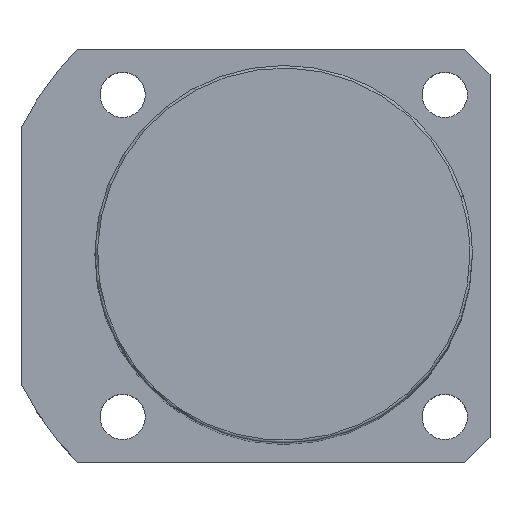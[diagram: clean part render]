
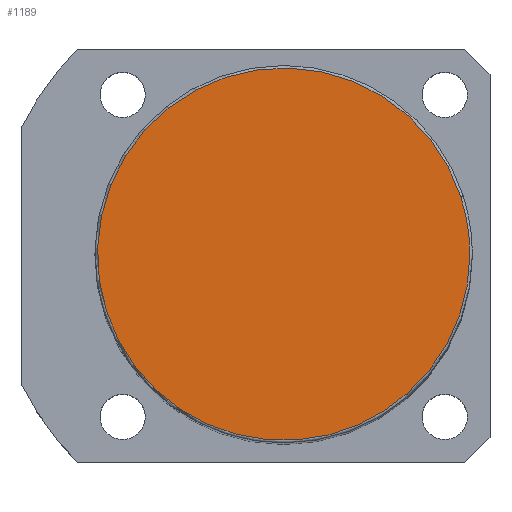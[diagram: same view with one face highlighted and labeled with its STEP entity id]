
A CAD part, top view. The second image highlights one B-rep face of the part: STEP entity #1189.
In plain terms, the highlighted planar face has unit normal (0, 0, 1).
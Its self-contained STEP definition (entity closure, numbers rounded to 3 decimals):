
#1155=CARTESIAN_POINT('',(37.0,0.0,203.0));
#1156=VERTEX_POINT('',#1155);
#1157=CARTESIAN_POINT('',(35.189,11.434,203.0));
#1158=VERTEX_POINT('',#1157);
#1159=CARTESIAN_POINT('',(0.0,0.0,203.0));
#1160=DIRECTION('',(0.0,0.0,1.0));
#1161=DIRECTION('',(1.0,0.0,0.0));
#1162=AXIS2_PLACEMENT_3D('',#1159,#1160,#1161);
#1163=CIRCLE('',#1162,37.0);
#1164=EDGE_CURVE('no 1738',#1156,#1158,#1163,.T.);
#1165=ORIENTED_EDGE('',*,*,#1164,.T.);
#1166=CARTESIAN_POINT('',(-35.189,-11.434,203.0));
#1167=VERTEX_POINT('',#1166);
#1168=CARTESIAN_POINT('',(0.0,0.0,203.0));
#1169=DIRECTION('',(0.0,0.0,1.0));
#1170=DIRECTION('',(1.0,0.0,0.0));
#1171=AXIS2_PLACEMENT_3D('',#1168,#1169,#1170);
#1172=CIRCLE('',#1171,37.0);
#1173=EDGE_CURVE('no 1744',#1158,#1167,#1172,.T.);
#1174=ORIENTED_EDGE('',*,*,#1173,.T.);
#1175=CARTESIAN_POINT('',(0.0,0.0,203.0));
#1176=DIRECTION('',(0.0,0.0,1.0));
#1177=DIRECTION('',(1.0,0.0,0.0));
#1178=AXIS2_PLACEMENT_3D('',#1175,#1176,#1177);
#1179=CIRCLE('',#1178,37.0);
#1180=EDGE_CURVE('no 1748',#1167,#1156,#1179,.T.);
#1181=ORIENTED_EDGE('',*,*,#1180,.T.);
#1182=EDGE_LOOP('',(#1165,#1174,#1181));
#1183=FACE_OUTER_BOUND('',#1182,.T.);
#1184=CARTESIAN_POINT('',(0.0,0.0,203.0));
#1185=DIRECTION('',(0.0,0.0,1.0));
#1186=DIRECTION('',(1.0,0.0,0.0));
#1187=AXIS2_PLACEMENT_3D('',#1184,#1185,#1186);
#1188=PLANE('',#1187);
#1189=ADVANCED_FACE('no 1729',(#1183),#1188,.T.);
